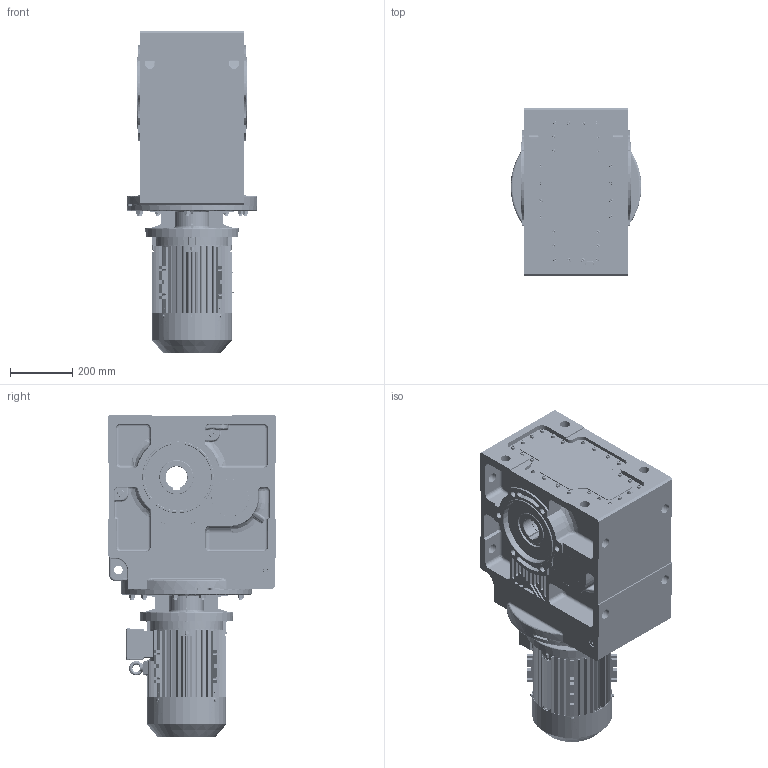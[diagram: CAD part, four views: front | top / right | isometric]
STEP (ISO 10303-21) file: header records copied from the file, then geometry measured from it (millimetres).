
FILE_DESCRIPTION (( 'STEP AP203' ), '1' );
FILE_NAME ('KV_773_0_MX3-132S.STEP', '2018-11-21T09:04:25', ( '' ), ( '' ), 'SwSTEP 2.0', 'SolidWorks 2012', '' );
FILE_SCHEMA (( 'CONFIG_CONTROL_DESIGN' ));
Products named in the file (33): KV_773_0_MX3-132S; plain parallel keys_GB_CONNECTING_PIECE_KEYS_CSK 10X70_1; cross recessed pan head screws gb_GB_CROSS_SCREWS_TYPE1 M5X25-25  H type-N_1; cross recessed pan head screws gb_GB_CROSS_SCREWS_TYPE1 M5X8-8  H type-N_1; MX3-132S_B5; plain washers--product grade c gb_GB_FASTENER_WASHER_SMWC 4_1; hexagon socket head cap screws gb_GB_FASTENER_SCREWS_HSHCS M8X45-N; DMX-IE3 132S4 fan_1; eyebolts gb_GB_FASTENER_SCREWS_FRS M10-S_1; cross recessed pan head screws gb_GB_CROSS_SCREWS_TYPE1 M4X6-6  H type-N_1; DMX-IE3 132S4 grouding mark_1; circlips for shaft--type a large gb_GB_CONNECTING_PIECE_RING_RRA 29_1; DMX-IE3 132S4   gasket for terminal box cover_1; DMX-IE3 132S4  cable glands_1; DMX-IE3 132S4  oil seal_1; DMX-IE3 132S4  connection board_1; DMX-IE3 132S4   gasket for terminal box base_1; spring lock washers--normal type gb_GB_FASTENER_WASHER_SW 8_1; hexagon nuts grade c gb_GB_FASTENER_NUT_SNC1 M8-N_1; hexagon socket head cap screws gb_GB_FASTENER_SCREWS_HSHCS M8X35-N_1; cross recessed pan head screws gb_GB_CROSS_SCREWS_TYPE1 M5X10-10  H type-N_1; DMX-IE3 132S4   fan cover_1; hex flange bolts-heavy grade b gb_GB_FASTENER_BOLT_HFBB M5X10-N_1; DMX-IE3 132S4   terminal box cover_1; DMX-IE3 132S4   rotor1_1; DMX-IE3 132S4   rotor2_1; DMX-IE3 132S4  terminal box_1; DMX-IE3 132S4  flange B3_1; DMX-IE3 132S4  flange B5; DMX-IE3 132S4  casing_1; K773_Varsayìlan; 73132B5_Varsayìlan; ML60A_Varsayìlan
Assembly tree (64 placements, depth 3):
  KV_773_0_MX3-132S
    K773_Varsayìlan
    73132B5_Varsayìlan
    ML60A_Varsayìlan
    MX3-132S_B5
      DMX-IE3 132S4  casing_1
      DMX-IE3 132S4  flange B5
      DMX-IE3 132S4  flange B3_1
      DMX-IE3 132S4   rotor1_1
      DMX-IE3 132S4   rotor2_1
      DMX-IE3 132S4   terminal box cover_1
      DMX-IE3 132S4  terminal box_1
      DMX-IE3 132S4   fan cover_1
      hex flange bolts-heavy grade b gb_GB_FASTENER_BOLT_HFBB M5X10-N_1  x4
      cross recessed pan head screws gb_GB_CROSS_SCREWS_TYPE1 M5X10-10  H type-N_1  x4
      hexagon nuts grade c gb_GB_FASTENER_NUT_SNC1 M8-N_1  x7
      spring lock washers--normal type gb_GB_FASTENER_WASHER_SW 8_1  x8
      hexagon socket head cap screws gb_GB_FASTENER_SCREWS_HSHCS M8X35-N_1  x5
      DMX-IE3 132S4   gasket for terminal box base_1
      DMX-IE3 132S4  connection board_1
      DMX-IE3 132S4   gasket for terminal box cover_1
      DMX-IE3 132S4  oil seal_1
      DMX-IE3 132S4  cable glands_1  x2
      circlips for shaft--type a large gb_GB_CONNECTING_PIECE_RING_RRA 29_1
      DMX-IE3 132S4 grouding mark_1
      cross recessed pan head screws gb_GB_CROSS_SCREWS_TYPE1 M4X6-6  H type-N_1  x3
      eyebolts gb_GB_FASTENER_SCREWS_FRS M10-S_1
      plain washers--product grade c gb_GB_FASTENER_WASHER_SMWC 4_1
      hexagon socket head cap screws gb_GB_FASTENER_SCREWS_HSHCS M8X45-N  x3
      DMX-IE3 132S4 fan_1
      cross recessed pan head screws gb_GB_CROSS_SCREWS_TYPE1 M5X25-25  H type-N_1  x2
      cross recessed pan head screws gb_GB_CROSS_SCREWS_TYPE1 M5X8-8  H type-N_1  x4
      plain parallel keys_GB_CONNECTING_PIECE_KEYS_CSK 10X70_1
Bounding box: 420 x 540 x 1035.1 mm (x, y, z)
Volume: 90248080.8 mm3; surface area: 4382671.2 mm2
Topology: 66 solids, 68 shells, 6321 faces, 16556 edges, 10585 vertices
Faces by surface type: plane 3431, cylinder 1609, cone 681, bspline 596, torus 4
Entity records: 205435 total; most frequent: CARTESIAN_POINT 61243, ORIENTED_EDGE 29638, DIRECTION 28288, EDGE_CURVE 14819, AXIS2_PLACEMENT_3D 9590, VERTEX_POINT 9547, VECTOR 9108, LINE 9108
